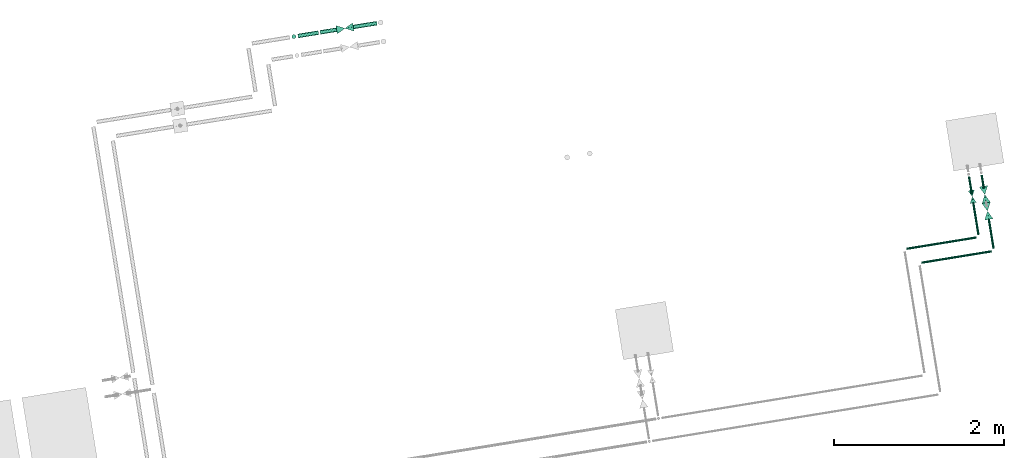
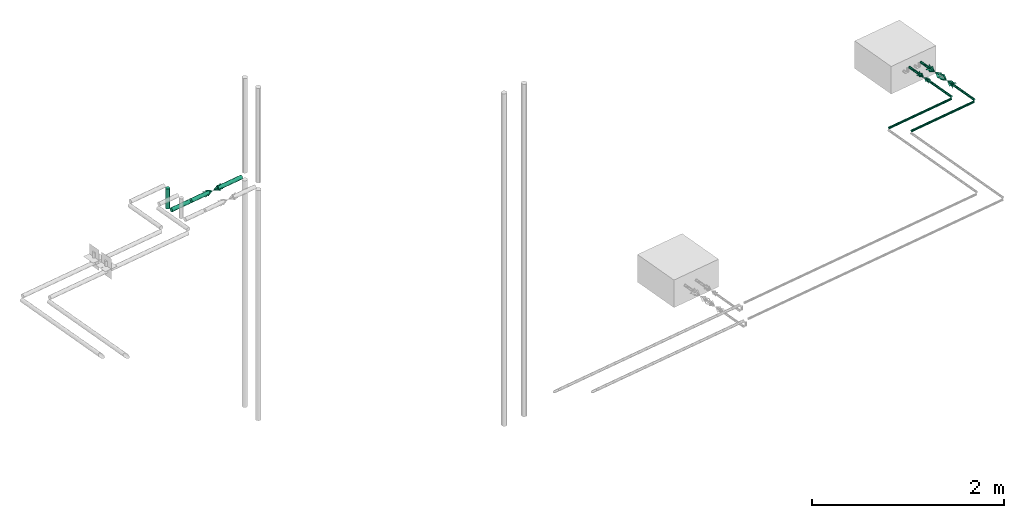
# One storey, part 3 of 8: 10 flow segments, 4 flow controllers.
"""IFC2X3 building model written with IfcOpenShell, lengths in millimetres."""

from ifc_helpers import new_model, entity, si_unit, converted_unit, derived_unit, direction, frame, frame_2d, origin, origin_with_axes, origin_2d_with_axis, place, context, subcontext, project, spatial, polyline, circle, outline, extrude, source, transform, mapped, material, type_object, element, save


model = new_model("IFC2X3")

# Units and contexts
model_context = context("Model", 3, precision=0.01, world=origin(), true_north=direction((6.12323399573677e-17, 1.0)))
plan_context = context("Plan", 3, precision=1e-05, world=origin_with_axes())
body_context = subcontext(model_context, "Body", "Model", "MODEL_VIEW")
ifc_project = project(units=[converted_unit("PLANEANGLEUNIT", "DEGREE", entity("IfcPositiveLengthMeasure", 0.0174532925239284), si_unit("PLANEANGLEUNIT", "RADIAN"), dimensions=[0, 0, 0, 0, 0, 0, 0]), si_unit("AREAUNIT", "SQUARE_METRE"), si_unit("LENGTHUNIT", "METRE", prefix="MILLI"), si_unit("MASSUNIT", "GRAM", prefix="KILO"), si_unit("POWERUNIT", "WATT"), si_unit("PRESSUREUNIT", "PASCAL", prefix="KILO"), si_unit("FORCEUNIT", "NEWTON", prefix="KILO"), si_unit("ELECTRICVOLTAGEUNIT", "VOLT"), si_unit("ELECTRICCURRENTUNIT", "AMPERE"), si_unit("THERMODYNAMICTEMPERATUREUNIT", "DEGREE_CELSIUS"), si_unit("TIMEUNIT", "SECOND"), si_unit("VOLUMEUNIT", "CUBIC_METRE"), derived_unit("LINEARVELOCITYUNIT", [(si_unit("LENGTHUNIT", "METRE"), 1), (si_unit("TIMEUNIT", "SECOND"), -1)]), derived_unit("VOLUMETRICFLOWRATEUNIT", [(si_unit("VOLUMEUNIT", "CUBIC_METRE"), 1), (si_unit("TIMEUNIT", "SECOND"), -1)]), derived_unit("THERMALTRANSMITTANCEUNIT", [(si_unit("POWERUNIT", "WATT"), 1), (si_unit("THERMODYNAMICTEMPERATUREUNIT", "KELVIN"), -1), (si_unit("AREAUNIT", "SQUARE_METRE"), -1)]), derived_unit("SOUNDPRESSUREUNIT", [(si_unit("PRESSUREUNIT", "PASCAL"), 1)])], contexts=[model_context, plan_context])

# Site, building, storey
site_placement = place(None, frame((-0.00071070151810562, 0.00438415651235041, 0.0), z_axis=(0.0, 0.0, 1.0), x_axis=(-0.160236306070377, 0.987078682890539, 0.0)))
site = spatial("IfcSite", under=ifc_project, at=site_placement, Name="Default", CompositionType="ELEMENT")
building_placement = place(site_placement, origin_with_axes())
building = spatial("IfcBuilding", under=site, at=building_placement, CompositionType="ELEMENT")
storey_placement = place(building_placement, frame((0.0, 0.0, 50999.9999999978), z_axis=(0.0, 0.0, 1.0), x_axis=(1.0, 0.0, 0.0)))
storey = spatial("IfcBuildingStorey", under=building, at=storey_placement, Name="Nivå D", CompositionType="ELEMENT", Elevation=50999.9999999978)

# Flow controllers
ifc_material_1 = material(Name="2d_hide")
valve_type_1 = type_object("IfcValveType", Name="STENGEVENTIL - MANUELL--SM06T:STENGEVENTIL - MANUELL-40-SM006T", PredefinedType="NOTDEFINED", material=ifc_material_1)
shared_shape_1 = source(origin(), body_context, "Body", "SweptSolid", [
    extrude(outline(polyline([(-52.1749194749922, -29.8142396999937), (59.6284794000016, -29.8142396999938), (-7.45355992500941, 59.6284793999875), (-52.1749194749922, -29.8142396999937)])), frame((66.6666666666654, 0.0, -0.1), z_axis=(0.0, 0.0, 1.0), x_axis=(-0.894427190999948, -0.447213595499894, 0.0)), (0.0, 0.0, 1.0), 0.2),
    extrude(outline(polyline([(-50.0, -33.3333333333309), (50.0, -33.3333333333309), (0.0, 66.6666666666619), (-50.0, -33.3333333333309)])), frame((-66.6666666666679, 0.0, -0.1), z_axis=(0.0, 0.0, 1.0), x_axis=(0.0, -1.0, 0.0)), (0.0, 0.0, 1.0), 0.2),
    extrude(outline(polyline([(-52.1749194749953, -29.8142396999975), (59.628479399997, -29.8142396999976), (-7.45355992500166, 59.6284793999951), (-52.1749194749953, -29.8142396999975)])), frame((66.6666666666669, -0.1, 0.0), z_axis=(0.0, 1.0, 0.0), x_axis=(-0.894427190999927, 0.0, 0.447213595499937)), (0.0, 0.0, 1.0), 0.2),
    extrude(outline(polyline([(-50.0, -33.3333333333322), (50.0, -33.3333333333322), (0.0, 66.6666666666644), (-50.0, -33.3333333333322)])), frame((-66.6666666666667, -0.1, 0.0), z_axis=(0.0, 1.0, 0.0), x_axis=(0.0, 0.0, 1.0)), (0.0, 0.0, 1.0), 0.2),
])
flow_controller_1_placement = place(storey_placement, frame((777750.860958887, -594252.142352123, 2949.99511261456), z_axis=(-1.0, 1.27377737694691e-25, 1.6940658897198e-21), x_axis=(0.0, 0.999999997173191, -7.51905448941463e-05)))
element("IfcFlowController", 1, at=flow_controller_1_placement, inside=storey, type_object=valve_type_1, material=ifc_material_1, Name="STENGEVENTIL - MANUELL--SM06T:STENGEVENTIL - MANUELL-40-SM006T", ObjectType="STENGEVENTIL - MANUELL--SM06T:STENGEVENTIL - MANUELL-40-SM006T", context=body_context, shape_type="MappedRepresentation", body=[
    mapped(shared_shape_1, transform((0.0, 0.0, 0.0), scale=1.0)),
])
ifc_material_2 = material(Name="<Unnamed>")
valve_type_2 = type_object("IfcValveType", Name="STENGEVENTIL - MANUELL-  1-SM01T:STENGEVENTIL - MANUELL-20-SM001T", PredefinedType="NOTDEFINED", material=ifc_material_2)
shared_shape_2 = source(origin(), body_context, "Body", "SweptSolid", [
    extrude(outline(polyline([(-39.1311896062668, -22.3606797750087), (44.7213595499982, -22.3606797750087), (-5.59016994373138, 44.7213595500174), (-39.1311896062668, -22.3606797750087)])), frame((50.0, -1.07349053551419, 0.0), z_axis=(0.0, 1.0, 0.0), x_axis=(-0.894427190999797, 0.0, 0.447213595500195)), (0.0, 0.0, 1.0), 2.13989335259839),
    extrude(outline(polyline([(-37.5000000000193, -25.0), (37.5000000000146, -25.0), (0.0, 50.0), (-37.5000000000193, -25.0)])), frame((-50.0, -1.07349053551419, 0.0), z_axis=(0.0, 1.0, 0.0), x_axis=(0.0, 0.0, 1.0)), (0.0, 0.0, 1.0), 2.13989335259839),
    extrude(outline(polyline([(-37.5000000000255, -25.0), (37.5000000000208, -25.0), (0.0, 50.0), (-37.5000000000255, -25.0)])), frame((50.0, 0.0, -1.0664028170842), z_axis=(0.0, 0.0, 1.0), x_axis=(0.0, 1.0, 0.0)), (0.0, 0.0, 1.0), 2.13989335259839),
    extrude(outline(polyline([(-39.1311896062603, -22.360679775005), (44.7213595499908, -22.360679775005), (-5.59016994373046, 44.72135955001), (-39.1311896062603, -22.360679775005)])), frame((-50.0, 0.0, -1.0664028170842), z_axis=(0.0, 0.0, 1.0), x_axis=(0.894427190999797, 0.447213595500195, 0.0)), (0.0, 0.0, 1.0), 2.13989335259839),
])
flow_controller_2_placement = place(storey_placement, frame((774608.292551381, -601232.142355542, 3000.0), z_axis=(0.0, 0.0, -1.0), x_axis=(-1.0, 0.0, 0.0)))
element("IfcFlowController", 2, at=flow_controller_2_placement, inside=storey, type_object=valve_type_2, material=ifc_material_2, Name="STENGEVENTIL - MANUELL-  1-SM01T:STENGEVENTIL - MANUELL-20-SM001T", ObjectType="STENGEVENTIL - MANUELL-  1-SM01T:STENGEVENTIL - MANUELL-20-SM001T", context=body_context, shape_type="MappedRepresentation", body=[
    mapped(shared_shape_2, transform((0.0, 0.0, 0.0), scale=1.0)),
])
valve_type_3 = type_object("IfcValveType", Name="REGULERINGSVENTIL - MOTORSTYRT-  1-SB001T:REGULERINGSVENTIL - MOTORSTYRT-SB001T", PredefinedType="NOTDEFINED", material=ifc_material_1)
shared_shape_3 = source(origin(), body_context, "Body", "SweptSolid", [
    extrude(outline(polyline([(-50.0, -33.3333333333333), (50.0, -33.3333333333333), (0.0, 66.6666666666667), (-50.0, -33.3333333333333)])), frame((66.6666666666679, 0.0, -0.1), z_axis=(0.0, 0.0, 1.0), x_axis=(0.0, 1.0, 0.0)), (0.0, 0.0, 1.0), 0.2),
    extrude(outline(polyline([(-52.1749194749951, -29.8142396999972), (59.6284793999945, -29.8142396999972), (-7.4535599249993, 59.6284793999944), (-52.1749194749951, -29.8142396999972)])), frame((-66.6666666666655, 0.0, -0.1), z_axis=(0.0, 0.0, 1.0), x_axis=(0.894427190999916, 0.447213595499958, 0.0)), (0.0, 0.0, 1.0), 0.2),
    extrude(outline(polyline([(-52.1749194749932, -29.8142396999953), (59.6284793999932, -29.8142396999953), (-7.45355992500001, 59.6284793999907), (-52.1749194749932, -29.8142396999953)])), frame((66.6666666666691, -0.1, 0.0), z_axis=(0.0, 1.0, 0.0), x_axis=(-0.894427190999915, 0.0, 0.447213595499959)), (0.0, 0.0, 1.0), 0.2),
    extrude(outline(polyline([(-50.0, -33.3333333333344), (50.0, -33.3333333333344), (0.0, 66.6666666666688), (-50.0, -33.3333333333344)])), frame((-66.6666666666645, -0.1, 0.0), z_axis=(0.0, 1.0, 0.0), x_axis=(0.0, 0.0, 1.0)), (0.0, 0.0, 1.0), 0.2),
])
flow_controller_3_placement = place(storey_placement, frame((774608.292551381, -601382.142355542, 3000.0), z_axis=(0.0, 0.0, 1.0), x_axis=(-1.0, 0.0, 0.0)))
element("IfcFlowController", 3, at=flow_controller_3_placement, inside=storey, type_object=valve_type_3, material=ifc_material_1, Name="REGULERINGSVENTIL - MOTORSTYRT-  1-SB001T:REGULERINGSVENTIL - MOTORSTYRT-SB001T", ObjectType="REGULERINGSVENTIL - MOTORSTYRT-  1-SB001T:REGULERINGSVENTIL - MOTORSTYRT-SB001T", context=body_context, shape_type="MappedRepresentation", body=[
    mapped(shared_shape_3, transform((0.0, 0.0, 0.0), scale=1.0)),
])
valve_type_4 = type_object("IfcValveType", Name="REGULERINGSVENTIL - MANUELL--SV001T:REGULERINGSVENTIL - MANUELL-20-SV001T", PredefinedType="NOTDEFINED", material=ifc_material_1)
shared_shape_4 = source(origin(), body_context, "Body", "SweptSolid", [
    extrude(outline(polyline([(-52.1749194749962, -29.8142396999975), (59.6284793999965, -29.8142396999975), (-7.45355992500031, 59.628479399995), (-52.1749194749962, -29.8142396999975)])), frame((66.6666666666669, 0.0, -0.1), z_axis=(0.0, 0.0, 1.0), x_axis=(-0.894427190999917, -0.447213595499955, 0.0)), (0.0, 0.0, 1.0), 0.2),
    extrude(outline(polyline([(-50.0, -33.3333333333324), (50.0, -33.3333333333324), (0.0, 66.6666666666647), (-50.0, -33.3333333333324)])), frame((-66.6666666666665, 0.0, -0.1), z_axis=(0.0, 0.0, 1.0), x_axis=(0.0, -1.0, 0.0)), (0.0, 0.0, 1.0), 0.2),
    extrude(outline(polyline([(-52.1749194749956, -29.8142396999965), (59.6284793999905, -29.8142396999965), (-7.45355992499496, 59.628479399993), (-52.1749194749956, -29.8142396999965)])), frame((66.66666666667, -0.1, 0.0), z_axis=(0.0, 1.0, 0.0), x_axis=(-0.894427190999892, 0.0, 0.447213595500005)), (0.0, 0.0, 1.0), 0.2),
    extrude(outline(polyline([(-50.0, -33.3333333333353), (50.0, -33.3333333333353), (0.0, 66.6666666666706), (-50.0, -33.3333333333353)])), frame((-66.6666666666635, -0.1, 0.0), z_axis=(0.0, 1.0, 0.0), x_axis=(0.0, 0.0, 1.0)), (0.0, 0.0, 1.0), 0.2),
])
flow_controller_4_placement = place(storey_placement, frame((774411.506063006, -601382.142355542, 3000.0), z_axis=(0.0, 0.0, 1.0), x_axis=(-1.0, 0.0, 0.0)))
element("IfcFlowController", 4, at=flow_controller_4_placement, inside=storey, type_object=valve_type_4, material=ifc_material_1, Name="REGULERINGSVENTIL - MANUELL--SV001T:REGULERINGSVENTIL - MANUELL-20-SV001T", ObjectType="REGULERINGSVENTIL - MANUELL--SV001T:REGULERINGSVENTIL - MANUELL-20-SV001T", context=body_context, shape_type="MappedRepresentation", body=[
    mapped(shared_shape_4, transform((0.0, 0.0, 0.0), scale=1.0)),
])

# Flow segments
pipe_segment_type = type_object("IfcPipeSegmentType", Name="Pipe Types:Stålrør syrefast AISI 316", PredefinedType="NOTDEFINED")
flow_segment_1_placement = place(storey_placement, origin_with_axes())
element("IfcFlowSegment", 5, at=flow_segment_1_placement, inside=storey, type_object=pipe_segment_type, Name="Pipe Types:Stålrør syrefast AISI 316", ObjectType="Pipe Types:Stålrør syrefast AISI 316", context=body_context, shape_type="SweptSolid", body=[
    extrude(circle(Radius=24.1499996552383, at=origin_2d_with_axis()), frame((777750.860958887, -594633.526649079, 2950.0), z_axis=(0.0, 1.0, 0.0), x_axis=(1.0, 0.0, 0.0)), (0.0, 0.0, 1.0), 321.384297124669),
])
flow_segment_2_placement = place(storey_placement, origin_with_axes())
element("IfcFlowSegment", 6, at=flow_segment_2_placement, inside=storey, type_object=pipe_segment_type, Name="Pipe Types:Stålrør syrefast AISI 316", ObjectType="Pipe Types:Stålrør syrefast AISI 316", context=body_context, shape_type="SweptSolid", body=[
    extrude(circle(Radius=24.1499996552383, at=origin_2d_with_axis()), frame((777750.860958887, -593955.627913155, 2949.96781547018), z_axis=(0.0, -0.999999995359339, 9.63396217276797e-05), x_axis=(1.0, 0.0, 0.0)), (0.0, 0.0, 1.0), 236.514440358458),
])
flow_segment_3_placement = place(storey_placement, origin_with_axes())
element("IfcFlowSegment", 7, at=flow_segment_3_placement, inside=storey, type_object=pipe_segment_type, Name="Pipe Types:Stålrør syrefast AISI 316", ObjectType="Pipe Types:Stålrør syrefast AISI 316", context=body_context, shape_type="SweptSolid", body=[
    extrude(circle(Radius=24.1499996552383, at=origin_2d_with_axis()), frame((777750.860958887, -593935.627913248, 2949.96588867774), z_axis=(0.0, 0.999999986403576, -0.00016490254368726), x_axis=(1.0, 0.0, 0.0)), (0.0, 0.0, 1.0), 244.744569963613),
])
flow_segment_4_placement = place(storey_placement, origin_with_axes())
element("IfcFlowSegment", 8, at=flow_segment_4_placement, inside=storey, type_object=pipe_segment_type, Name="Pipe Types:Stålrør syrefast AISI 316", ObjectType="Pipe Types:Stålrør syrefast AISI 316", context=body_context, shape_type="SweptSolid", body=[
    extrude(circle(Radius=24.1499996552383, at=origin_2d_with_axis()), frame((777750.860958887, -593642.48173883, 2998.32552964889), z_axis=(0.0, 0.0, 1.0), x_axis=(-1.0, 0.0, 0.0)), (0.0, 0.0, 1.0), 253.296784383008),
])
flow_segment_5_placement = place(storey_placement, origin_with_axes())
element("IfcFlowSegment", 9, at=flow_segment_5_placement, inside=storey, type_object=pipe_segment_type, Name="Pipe Types:Stålrør syrefast AISI 316", ObjectType="Pipe Types:Stålrør syrefast AISI 316", context=body_context, shape_type="SweptSolid", body=[
    extrude(circle(Radius=13.3500004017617, at=origin_2d_with_axis()), frame((774125.737804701, -601205.342355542, 3000.0), z_axis=(0.0, 1.0, 0.0), x_axis=(-1.0, 0.0, 0.0)), (0.0, 0.0, 1.0), 836.399999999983),
])
flow_segment_6_placement = place(storey_placement, origin_with_axes())
element("IfcFlowSegment", 10, at=flow_segment_6_placement, inside=storey, type_object=pipe_segment_type, Name="Pipe Types:Stålrør syrefast AISI 316", ObjectType="Pipe Types:Stålrør syrefast AISI 316", context=body_context, shape_type="SweptSolid", body=[
    extrude(circle(Radius=13.3500004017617, at=origin_2d_with_axis()), frame((773935.699644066, -601355.342355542, 3000.0), z_axis=(0.0, 1.0, 0.0), x_axis=(-1.0, 0.0, 0.0)), (0.0, 0.0, 1.0), 838.200000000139),
])
flow_segment_7_placement = place(storey_placement, origin_with_axes())
element("IfcFlowSegment", 11, at=flow_segment_7_placement, inside=storey, type_object=pipe_segment_type, Name="Pipe Types:Stålrør syrefast AISI 316", ObjectType="Pipe Types:Stålrør syrefast AISI 316", context=body_context, shape_type="SweptSolid", body=[
    extrude(circle(Radius=13.3500004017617, at=frame_2d((6.93034962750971e-11, 0.0), x_axis=(1.0, 0.0))), frame((774637.292551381, -601232.142355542, 3000.0), z_axis=(1.0, 0.0, 0.0), x_axis=(0.0, -1.0, 0.0)), (0.0, 0.0, 1.0), 211.607092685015),
])
flow_segment_8_placement = place(storey_placement, origin_with_axes())
element("IfcFlowSegment", 12, at=flow_segment_8_placement, inside=storey, type_object=pipe_segment_type, Name="Pipe Types:Stålrør syrefast AISI 316", ObjectType="Pipe Types:Stålrør syrefast AISI 316", context=body_context, shape_type="SweptSolid", body=[
    extrude(circle(Radius=13.3500004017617, at=origin_2d_with_axis()), frame((774683.292551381, -601382.142355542, 3000.0), z_axis=(1.0, 0.0, 0.0), x_axis=(0.0, -1.0, 0.0)), (0.0, 0.0, 1.0), 160.607092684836),
])
flow_segment_9_placement = place(storey_placement, origin_with_axes())
element("IfcFlowSegment", 13, at=flow_segment_9_placement, inside=storey, type_object=pipe_segment_type, Name="Pipe Types:Stålrør syrefast AISI 316", ObjectType="Pipe Types:Stålrør syrefast AISI 316", context=body_context, shape_type="SweptSolid", body=[
    extrude(circle(Radius=13.3500004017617, at=frame_2d((6.93034962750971e-11, 0.0), x_axis=(1.0, 0.0))), frame((774152.537804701, -601232.142355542, 3000.0), z_axis=(1.0, 0.0, 0.0), x_axis=(0.0, -1.0, 0.0)), (0.0, 0.0, 1.0), 426.754746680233),
])
flow_segment_10_placement = place(storey_placement, origin_with_axes())
element("IfcFlowSegment", 14, at=flow_segment_10_placement, inside=storey, type_object=pipe_segment_type, Name="Pipe Types:Stålrør syrefast AISI 316", ObjectType="Pipe Types:Stålrør syrefast AISI 316", context=body_context, shape_type="SweptSolid", body=[
    extrude(circle(Radius=13.3500004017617, at=origin_2d_with_axis()), frame((773962.499644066, -601382.142355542, 3000.0), z_axis=(1.0, 0.0, 0.0), x_axis=(0.0, -1.0, 0.0)), (0.0, 0.0, 1.0), 400.506418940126),
])

save(model, "model.ifc")
